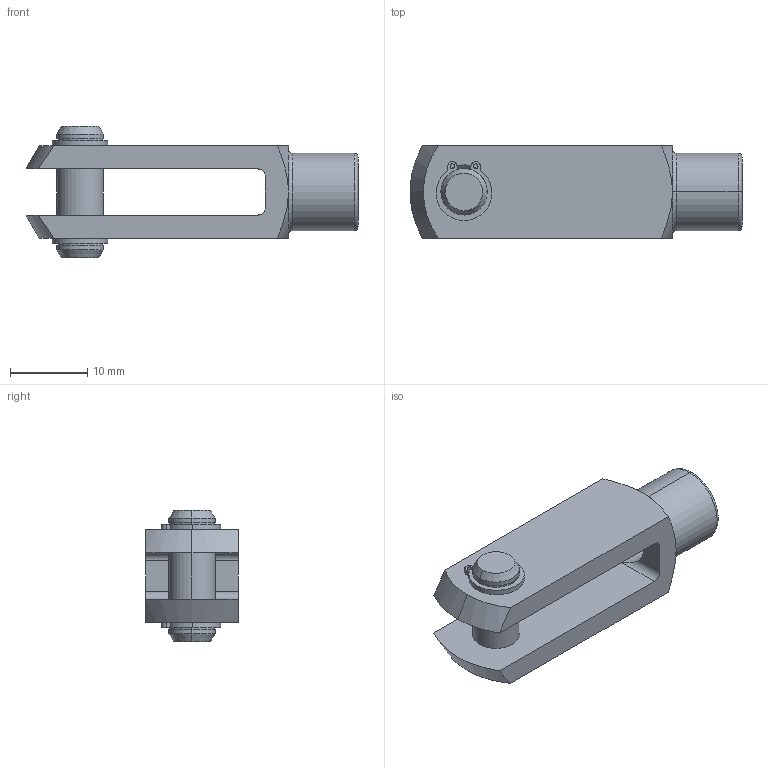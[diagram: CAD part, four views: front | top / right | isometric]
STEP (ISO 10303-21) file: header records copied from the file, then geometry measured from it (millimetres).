
FILE_DESCRIPTION (( 'STEP AP203' ), '1' );
FILE_NAME ('65616.W0062.step', '2014-01-18T10:30:41', ( 'User' ), ( '' ), 'SwSTEP 2.0', 'SolidWorks 2009', '' );
FILE_SCHEMA (( 'CONFIG_CONTROL_DESIGN' ));
Length unit declared in the file: millimetre
Products named in the file (4): 65616.W0062; Part1_65636.W0062; Part2_65666.W0006; Part3_65678.W0006
Assembly tree (4 placements, depth 2):
  65616.W0062
    Part2_65666.W0006
    Part3_65678.W0006  x2
    Part1_65636.W0062
Bounding box: 43 x 12 x 17 mm (x, y, z)
Volume: 3226 mm3; surface area: 3085.8 mm2
Topology: 4 solids, 4 shells, 95 faces, 227 edges, 144 vertices
Faces by surface type: cylinder 46, plane 28, cone 17, torus 4
Entity records: 2747 total; most frequent: CARTESIAN_POINT 479, DIRECTION 423, ORIENTED_EDGE 358, EDGE_CURVE 179, AXIS2_PLACEMENT_3D 176, VERTEX_POINT 112, CIRCLE 92, EDGE_LOOP 91
